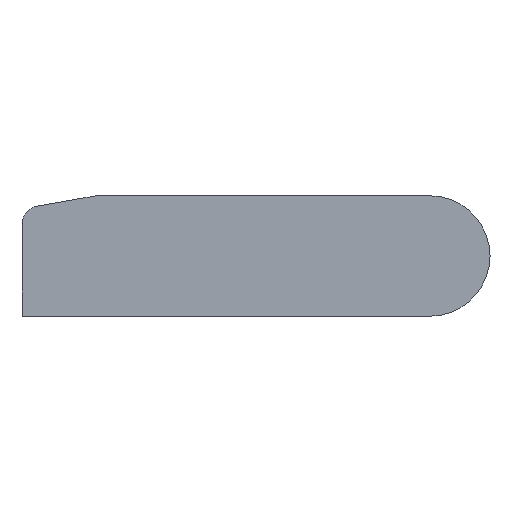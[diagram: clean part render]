
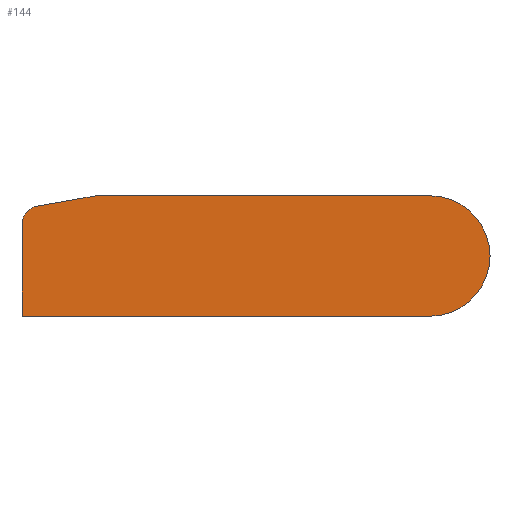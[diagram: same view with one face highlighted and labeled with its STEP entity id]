
A CAD part, top view. The second image highlights one B-rep face of the part: STEP entity #144.
In plain terms, the highlighted planar face has unit normal (0, 0, 1).
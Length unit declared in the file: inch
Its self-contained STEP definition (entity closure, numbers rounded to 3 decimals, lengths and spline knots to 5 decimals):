
#4 = EDGE_CURVE ( 'NONE', #124, #12, #82, .T. ) ;
#11 = LINE ( 'NONE', #232, #43 ) ;
#12 = VERTEX_POINT ( 'NONE', #133 ) ;
#21 = DIRECTION ( 'NONE',  ( 0., 0., 1. ) ) ;
#36 = EDGE_LOOP ( 'NONE', ( #105, #226, #278, #208, #280, #240 ) ) ;
#38 = EDGE_CURVE ( 'NONE', #252, #187, #238, .T. ) ;
#43 = VECTOR ( 'NONE', #117, 39.37008 ) ;
#56 = LINE ( 'NONE', #273, #72 ) ;
#65 = DIRECTION ( 'NONE',  ( 1., 0., 0. ) ) ;
#69 = CARTESIAN_POINT ( 'NONE',  ( -9., 1.625, 0.236 ) ) ;
#72 = VECTOR ( 'NONE', #154, 39.37008 ) ;
#79 = CARTESIAN_POINT ( 'NONE',  ( -11., -1.625, 0.236 ) ) ;
#82 = CIRCLE ( 'NONE', #100, 1.625 ) ;
#88 = VECTOR ( 'NONE', #177, 39.37008 ) ;
#90 = EDGE_CURVE ( 'NONE', #183, #252, #172, .T. ) ;
#98 = CARTESIAN_POINT ( 'NONE',  ( -10.58682, 1.3452, 0.236 ) ) ;
#100 = AXIS2_PLACEMENT_3D ( 'NONE', #201, #21, #109 ) ;
#105 = ORIENTED_EDGE ( 'NONE', *, *, #90, .T. ) ;
#109 = DIRECTION ( 'NONE',  ( 1., 0., 0. ) ) ;
#115 = EDGE_CURVE ( 'NONE', #244, #183, #277, .T. ) ;
#117 = DIRECTION ( 'NONE',  ( -1., 0., 0. ) ) ;
#124 = VERTEX_POINT ( 'NONE', #180 ) ;
#129 = DIRECTION ( 'NONE',  ( 1., 0., 0. ) ) ;
#133 = CARTESIAN_POINT ( 'NONE',  ( 0., 1.625, 0.236 ) ) ;
#143 = AXIS2_PLACEMENT_3D ( 'NONE', #156, #260, #65 ) ;
#144 = ADVANCED_FACE ( 'NONE', ( #170 ), #211, .T. ) ;
#147 = CARTESIAN_POINT ( 'NONE',  ( -11., 0.8528, 0.236 ) ) ;
#154 = DIRECTION ( 'NONE',  ( 1., 0., 0. ) ) ;
#156 = CARTESIAN_POINT ( 'NONE',  ( -10.5, 0.8528, 0.236 ) ) ;
#170 = FACE_OUTER_BOUND ( 'NONE', #36, .T. ) ;
#172 = CIRCLE ( 'NONE', #143, 0.5 ) ;
#173 = CARTESIAN_POINT ( 'NONE',  ( -10.5, 0.8528, 0.236 ) ) ;
#175 = CARTESIAN_POINT ( 'NONE',  ( -11., 0.8528, 0.236 ) ) ;
#177 = DIRECTION ( 'NONE',  ( -0.985, -0.174, 0. ) ) ;
#178 = VECTOR ( 'NONE', #197, 39.37008 ) ;
#180 = CARTESIAN_POINT ( 'NONE',  ( 0., -1.625, 0.236 ) ) ;
#183 = VERTEX_POINT ( 'NONE', #98 ) ;
#187 = VERTEX_POINT ( 'NONE', #79 ) ;
#188 = CARTESIAN_POINT ( 'NONE',  ( -9., 1.625, 0.236 ) ) ;
#189 = EDGE_CURVE ( 'NONE', #187, #124, #56, .T. ) ;
#197 = DIRECTION ( 'NONE',  ( 0., -1., 0. ) ) ;
#201 = CARTESIAN_POINT ( 'NONE',  ( 0., 0., 0.236 ) ) ;
#208 = ORIENTED_EDGE ( 'NONE', *, *, #4, .T. ) ;
#211 = PLANE ( 'NONE',  #274 ) ;
#226 = ORIENTED_EDGE ( 'NONE', *, *, #38, .T. ) ;
#232 = CARTESIAN_POINT ( 'NONE',  ( 0., 1.625, 0.236 ) ) ;
#238 = LINE ( 'NONE', #175, #178 ) ;
#240 = ORIENTED_EDGE ( 'NONE', *, *, #115, .T. ) ;
#244 = VERTEX_POINT ( 'NONE', #188 ) ;
#252 = VERTEX_POINT ( 'NONE', #147 ) ;
#260 = DIRECTION ( 'NONE',  ( 0., 0., 1. ) ) ;
#270 = EDGE_CURVE ( 'NONE', #12, #244, #11, .T. ) ;
#273 = CARTESIAN_POINT ( 'NONE',  ( -11., -1.625, 0.236 ) ) ;
#274 = AXIS2_PLACEMENT_3D ( 'NONE', #173, #276, #129 ) ;
#276 = DIRECTION ( 'NONE',  ( 0., 0., 1. ) ) ;
#277 = LINE ( 'NONE', #69, #88 ) ;
#278 = ORIENTED_EDGE ( 'NONE', *, *, #189, .T. ) ;
#280 = ORIENTED_EDGE ( 'NONE', *, *, #270, .T. ) ;
